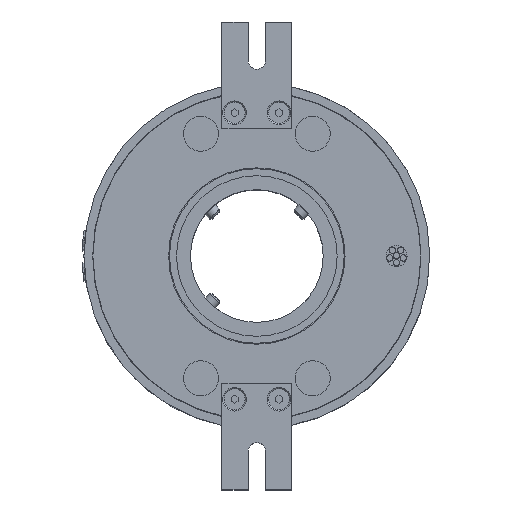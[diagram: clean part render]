
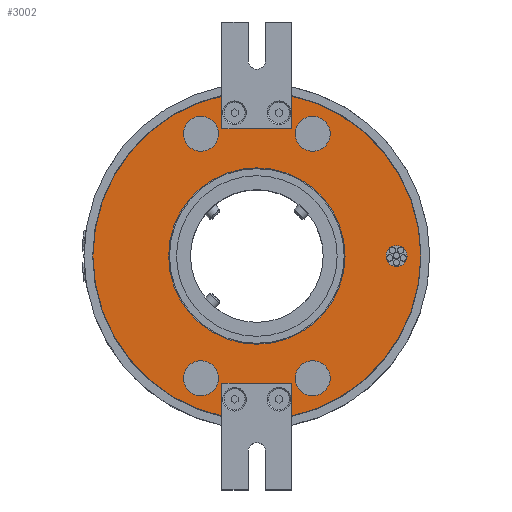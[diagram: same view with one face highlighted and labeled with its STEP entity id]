
A CAD part, top view. The second image highlights one B-rep face of the part: STEP entity #3002.
In plain terms, the highlighted planar face has unit normal (0, 0, 1).
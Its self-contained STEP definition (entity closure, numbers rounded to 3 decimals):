
#500=LINE('',#25252,#1080);
#504=LINE('',#25260,#1084);
#508=LINE('',#25267,#1088);
#562=LINE('',#25402,#1142);
#566=LINE('',#25410,#1146);
#570=LINE('',#25417,#1150);
#1080=VECTOR('',#15163,1.);
#1084=VECTOR('',#15169,1.);
#1088=VECTOR('',#15175,1.);
#1142=VECTOR('',#15305,1.);
#1146=VECTOR('',#15311,1.);
#1150=VECTOR('',#15317,1.);
#1620=PLANE('',#13896);
#3002=ADVANCED_FACE('',(#5075,#5076,#5077,#5078,#5079,#5080,#5081),#1620,
 .T.);
#5075=FACE_BOUND('',#5780,.T.);
#5076=FACE_BOUND('',#5781,.T.);
#5077=FACE_BOUND('',#5782,.T.);
#5078=FACE_BOUND('',#5783,.T.);
#5079=FACE_BOUND('',#5784,.T.);
#5080=FACE_BOUND('',#5785,.T.);
#5081=FACE_BOUND('',#5786,.T.);
#5780=EDGE_LOOP('',(#8540));
#5781=EDGE_LOOP('',(#8541));
#5782=EDGE_LOOP('',(#8542));
#5783=EDGE_LOOP('',(#8543));
#5784=EDGE_LOOP('',(#8544));
#5785=EDGE_LOOP('',(#8545));
#5786=EDGE_LOOP('',(#8546,#8547,#8548,#8549,#8550,#8551,#8552,#8553));
#8540=ORIENTED_EDGE('',*,*,#12767,.F.);
#8541=ORIENTED_EDGE('',*,*,#12765,.T.);
#8542=ORIENTED_EDGE('',*,*,#12763,.T.);
#8543=ORIENTED_EDGE('',*,*,#12761,.T.);
#8544=ORIENTED_EDGE('',*,*,#12759,.T.);
#8545=ORIENTED_EDGE('',*,*,#12757,.F.);
#8546=ORIENTED_EDGE('',*,*,#12631,.F.);
#8547=ORIENTED_EDGE('',*,*,#12754,.F.);
#8548=ORIENTED_EDGE('',*,*,#12694,.F.);
#8549=ORIENTED_EDGE('',*,*,#12698,.F.);
#8550=ORIENTED_EDGE('',*,*,#12702,.F.);
#8551=ORIENTED_EDGE('',*,*,#12755,.F.);
#8552=ORIENTED_EDGE('',*,*,#12623,.F.);
#8553=ORIENTED_EDGE('',*,*,#12627,.F.);
#10881=VERTEX_POINT('',#25251);
#10882=VERTEX_POINT('',#25253);
#10884=VERTEX_POINT('',#25259);
#10886=VERTEX_POINT('',#25266);
#10929=VERTEX_POINT('',#25401);
#10930=VERTEX_POINT('',#25403);
#10932=VERTEX_POINT('',#25409);
#10934=VERTEX_POINT('',#25416);
#10970=VERTEX_POINT('',#25538);
#10972=VERTEX_POINT('',#25543);
#10974=VERTEX_POINT('',#25548);
#10976=VERTEX_POINT('',#25553);
#10978=VERTEX_POINT('',#25558);
#10980=VERTEX_POINT('',#25563);
#12623=EDGE_CURVE('',#10881,#10882,#500,.T.);
#12627=EDGE_CURVE('',#10884,#10881,#504,.T.);
#12631=EDGE_CURVE('',#10886,#10884,#508,.T.);
#12694=EDGE_CURVE('',#10929,#10930,#562,.T.);
#12698=EDGE_CURVE('',#10932,#10929,#566,.T.);
#12702=EDGE_CURVE('',#10934,#10932,#570,.T.);
#12754=EDGE_CURVE('',#10930,#10886,#13366,.T.);
#12755=EDGE_CURVE('',#10882,#10934,#13367,.T.);
#12757=EDGE_CURVE('',#10970,#10970,#13369,.T.);
#12759=EDGE_CURVE('',#10972,#10972,#13371,.T.);
#12761=EDGE_CURVE('',#10974,#10974,#13373,.T.);
#12763=EDGE_CURVE('',#10976,#10976,#13375,.T.);
#12765=EDGE_CURVE('',#10978,#10978,#13377,.T.);
#12767=EDGE_CURVE('',#10980,#10980,#13379,.T.);
#13366=CIRCLE('',#13875,46.95);
#13367=CIRCLE('',#13876,46.95);
#13369=CIRCLE('',#13879,25.25);
#13371=CIRCLE('',#13882,5.);
#13373=CIRCLE('',#13885,5.);
#13375=CIRCLE('',#13888,5.);
#13377=CIRCLE('',#13891,5.);
#13379=CIRCLE('',#13894,3.);
#13875=AXIS2_PLACEMENT_3D('',#25532,#15436,#15437);
#13876=AXIS2_PLACEMENT_3D('',#25533,#15438,#15439);
#13879=AXIS2_PLACEMENT_3D('',#25537,#15444,#15445);
#13882=AXIS2_PLACEMENT_3D('',#25542,#15450,#15451);
#13885=AXIS2_PLACEMENT_3D('',#25547,#15456,#15457);
#13888=AXIS2_PLACEMENT_3D('',#25552,#15462,#15463);
#13891=AXIS2_PLACEMENT_3D('',#25557,#15468,#15469);
#13894=AXIS2_PLACEMENT_3D('',#25562,#15474,#15475);
#13896=AXIS2_PLACEMENT_3D('',#25565,#15478,#15479);
#15163=DIRECTION('',(0.,1.,0.));
#15169=DIRECTION('',(1.,0.,0.));
#15175=DIRECTION('',(0.,-1.,0.));
#15305=DIRECTION('',(0.,-1.,0.));
#15311=DIRECTION('',(-1.,0.,0.));
#15317=DIRECTION('',(0.,1.,0.));
#15436=DIRECTION('',(0.,0.,-1.));
#15437=DIRECTION('',(1.,0.,0.));
#15438=DIRECTION('',(0.,0.,-1.));
#15439=DIRECTION('',(1.,0.,0.));
#15444=DIRECTION('',(0.,0.,1.));
#15445=DIRECTION('',(1.,0.,0.));
#15450=DIRECTION('',(0.,0.,-1.));
#15451=DIRECTION('',(1.,0.,0.));
#15456=DIRECTION('',(0.,0.,-1.));
#15457=DIRECTION('',(-1.,0.,0.));
#15462=DIRECTION('',(0.,0.,-1.));
#15463=DIRECTION('',(1.,0.,0.));
#15468=DIRECTION('',(0.,0.,-1.));
#15469=DIRECTION('',(-1.,0.,0.));
#15474=DIRECTION('',(0.,0.,1.));
#15475=DIRECTION('',(0.866,-0.5,0.));
#15478=DIRECTION('',(0.,0.,1.));
#15479=DIRECTION('',(1.,0.,0.));
#25251=CARTESIAN_POINT('',(10.,36.5,57.5));
#25252=CARTESIAN_POINT('',(10.,51.75,57.5));
#25253=CARTESIAN_POINT('',(10.,45.873,57.5));
#25259=CARTESIAN_POINT('',(-10.,36.5,57.5));
#25260=CARTESIAN_POINT('',(0.,36.5,57.5));
#25266=CARTESIAN_POINT('',(-10.,45.873,57.5));
#25267=CARTESIAN_POINT('',(-10.,51.75,57.5));
#25401=CARTESIAN_POINT('',(-10.,-36.5,57.5));
#25402=CARTESIAN_POINT('',(-10.,-51.75,57.5));
#25403=CARTESIAN_POINT('',(-10.,-45.873,57.5));
#25409=CARTESIAN_POINT('',(10.,-36.5,57.5));
#25410=CARTESIAN_POINT('',(0.,-36.5,57.5));
#25416=CARTESIAN_POINT('',(10.,-45.873,57.5));
#25417=CARTESIAN_POINT('',(10.,-51.75,57.5));
#25532=CARTESIAN_POINT('',(0.,0.,57.5));
#25533=CARTESIAN_POINT('',(0.,0.,57.5));
#25537=CARTESIAN_POINT('',(0.,0.,57.5));
#25538=CARTESIAN_POINT('',(25.25,0.,57.5));
#25542=CARTESIAN_POINT('',(16.,35.,57.5));
#25543=CARTESIAN_POINT('',(21.,35.,57.5));
#25547=CARTESIAN_POINT('',(-16.,-35.,57.5));
#25548=CARTESIAN_POINT('',(-21.,-35.,57.5));
#25552=CARTESIAN_POINT('',(-16.,35.,57.5));
#25553=CARTESIAN_POINT('',(-11.,35.,57.5));
#25557=CARTESIAN_POINT('',(16.,-35.,57.5));
#25558=CARTESIAN_POINT('',(11.,-35.,57.5));
#25562=CARTESIAN_POINT('',(40.,0.,57.5));
#25563=CARTESIAN_POINT('',(42.598,-1.5,57.5));
#25565=CARTESIAN_POINT('',(0.,0.,57.5));
